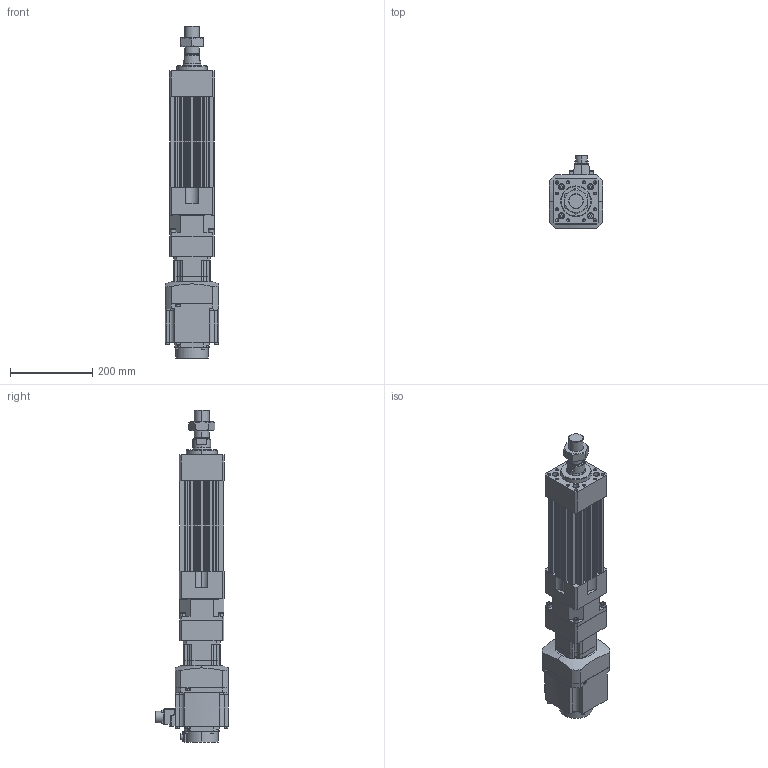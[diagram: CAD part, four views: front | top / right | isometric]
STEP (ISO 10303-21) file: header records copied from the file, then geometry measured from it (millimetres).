
FILE_DESCRIPTION (( 'STEP AP203' ), '1' );
FILE_NAME ('HES110NS(HS)-S050-W010G00-M.STEP', '2023-01-27T04:11:50', ( 'tms' ), ( '' ), 'SwSTEP 2.0', 'SolidWorks 2013', '' );
FILE_SCHEMA (( 'CONFIG_CONTROL_DESIGN' ));
Length unit declared in the file: millimetre
Products named in the file (8): P0401301004; AB0901; M36X1.5P; HG-SR102; HES110 ROD M ST050; AB090-003[HG-SR102B]; HES110NS(HS)-S050-W010G00-M; HES110-S050-G090
Assembly tree (7 placements, depth 3):
  HES110NS(HS)-S050-W010G00-M
    HES110-S050-G090
    HES110 ROD M ST050
    M36X1.5P
    AB090-003[HG-SR102B]
      AB0901
      P0401301004
    HG-SR102
Bounding box: 130 x 177.49 x 808.5 mm (x, y, z)
Volume: 5247929.8 mm3; surface area: 654218.1 mm2
Topology: 4 solids, 15 shells, 1197 faces, 3018 edges, 1947 vertices
Faces by surface type: plane 550, cylinder 535, cone 100, bspline 8, torus 4
Entity records: 37761 total; most frequent: CARTESIAN_POINT 7330, DIRECTION 6511, ORIENTED_EDGE 5944, EDGE_CURVE 2982, AXIS2_PLACEMENT_3D 2399, VERTEX_POINT 1947, LINE 1713, VECTOR 1713
